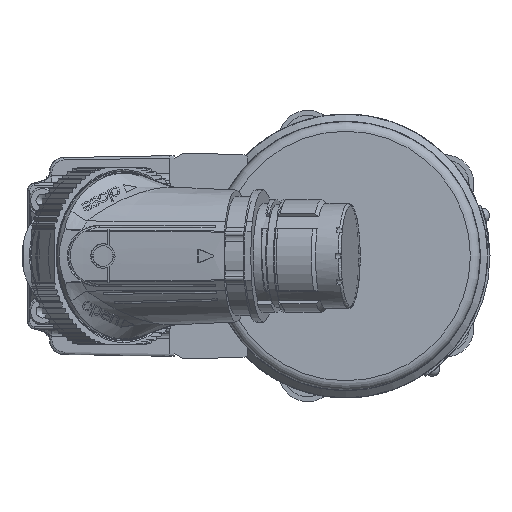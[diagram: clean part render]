
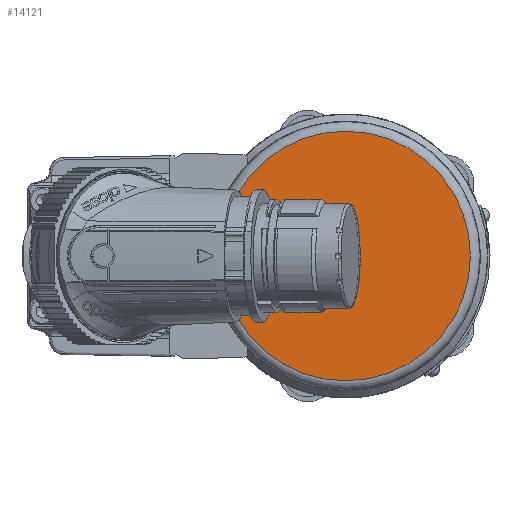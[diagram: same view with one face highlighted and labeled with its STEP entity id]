
A CAD part, left-side view. The second image highlights one B-rep face of the part: STEP entity #14121.
In plain terms, the highlighted planar face has unit normal (-1, 0, 0).
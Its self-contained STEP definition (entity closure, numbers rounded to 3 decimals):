
#14121 = ADVANCED_FACE ( 'NONE', ( #25622 ), #52000, .T. ) ;
#16250 = AXIS2_PLACEMENT_3D ( 'NONE', #39254, #88367, #46335 ) ;
#16325 = AXIS2_PLACEMENT_3D ( 'NONE', #36633, #59065, #16947 ) ;
#16947 = DIRECTION ( 'NONE',  ( 0., 0., 1. ) ) ;
#25622 = FACE_OUTER_BOUND ( 'NONE', #86268, .T. ) ;
#35724 = ORIENTED_EDGE ( 'NONE', *, *, #76170, .T. ) ;
#36633 = CARTESIAN_POINT ( 'NONE',  ( -313.3, 0., 0. ) ) ;
#39254 = CARTESIAN_POINT ( 'NONE',  ( -313.3, 0., 0. ) ) ;
#43836 = CIRCLE ( 'NONE', #16250, 25.5 ) ;
#46335 = DIRECTION ( 'NONE',  ( 0., 0., 1. ) ) ;
#52000 = PLANE ( 'NONE',  #16325 ) ;
#57937 = VERTEX_POINT ( 'NONE', #72019 ) ;
#59065 = DIRECTION ( 'NONE',  ( -1., 0., 0. ) ) ;
#72019 = CARTESIAN_POINT ( 'NONE',  ( -313.3, 0., 25.5 ) ) ;
#76170 = EDGE_CURVE ( 'NONE', #57937, #57937, #43836, .T. ) ;
#86268 = EDGE_LOOP ( 'NONE', ( #35724 ) ) ;
#88367 = DIRECTION ( 'NONE',  ( -1., 0., 0. ) ) ;
